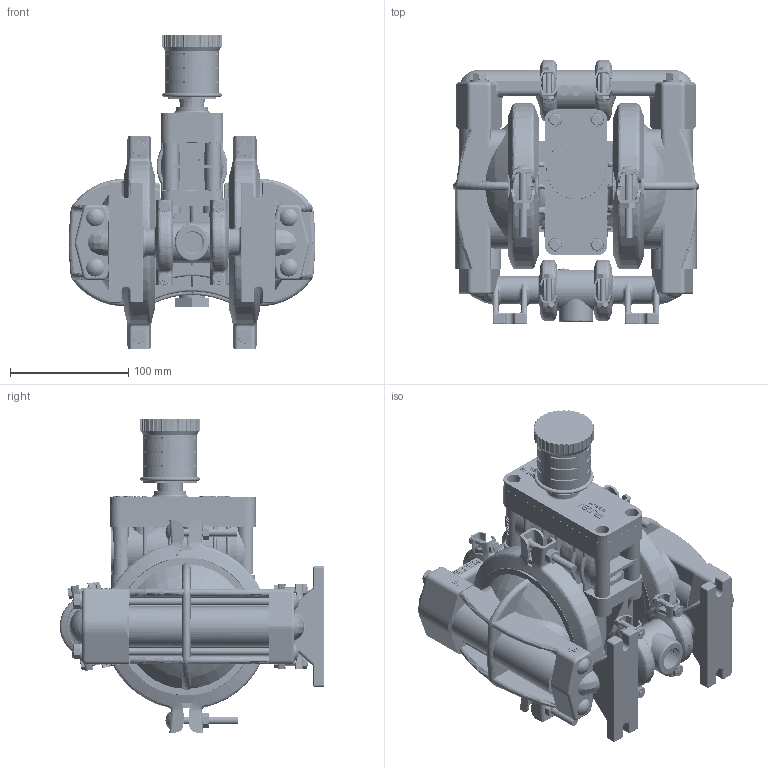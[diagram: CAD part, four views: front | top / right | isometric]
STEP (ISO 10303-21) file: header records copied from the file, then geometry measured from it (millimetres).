
FILE_DESCRIPTION (( 'STEP AP203' ), '1' );
FILE_NAME ('p1_plastic_drum_pump step 1.STEP', '2022-07-04T18:42:58', ( '' ), ( '' ), 'SwSTEP 2.0', 'SolidWorks 2019', '' );
FILE_SCHEMA (( 'CONFIG_CONTROL_DESIGN' ));
Products named in the file (1): p1_plastic_drum_pump step 1
Bounding box: 208.48 x 223.53 x 264.73 mm (x, y, z)
Volume: 2734791.6 mm3; surface area: 400490 mm2
Topology: 1 solids, 1 shells, 8777 faces, 23569 edges, 15084 vertices
Faces by surface type: plane 5846, bspline 1205, cylinder 1037, cone 424, torus 161, sphere 104
Entity records: 481292 total; most frequent: CARTESIAN_POINT 313952, ORIENTED_EDGE 47030, EDGE_CURVE 23515, B_SPLINE_CURVE_WITH_KNOTS 23239, DIRECTION 15198, VERTEX_POINT 15054, EDGE_LOOP 9173, FACE_OUTER_BOUND 8767
